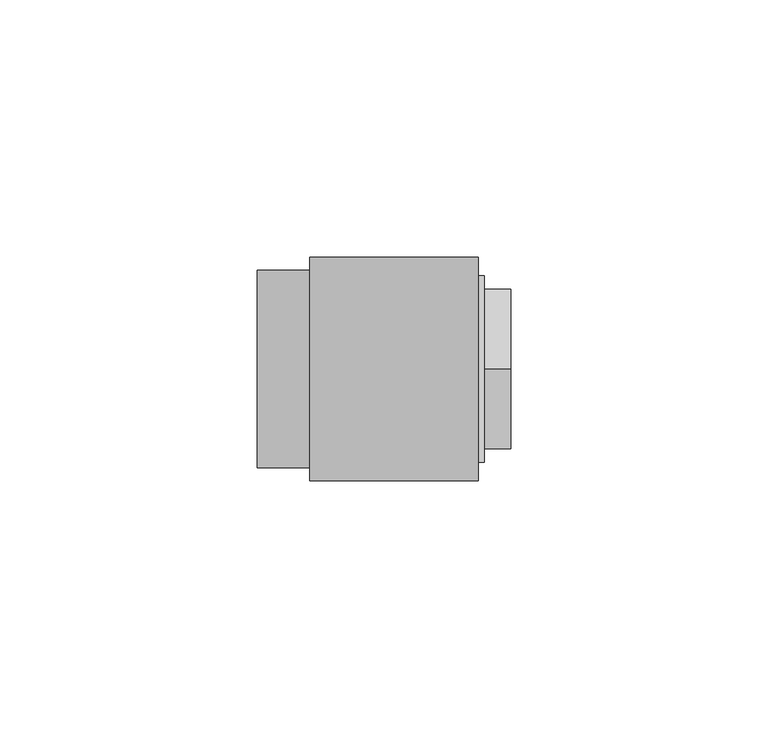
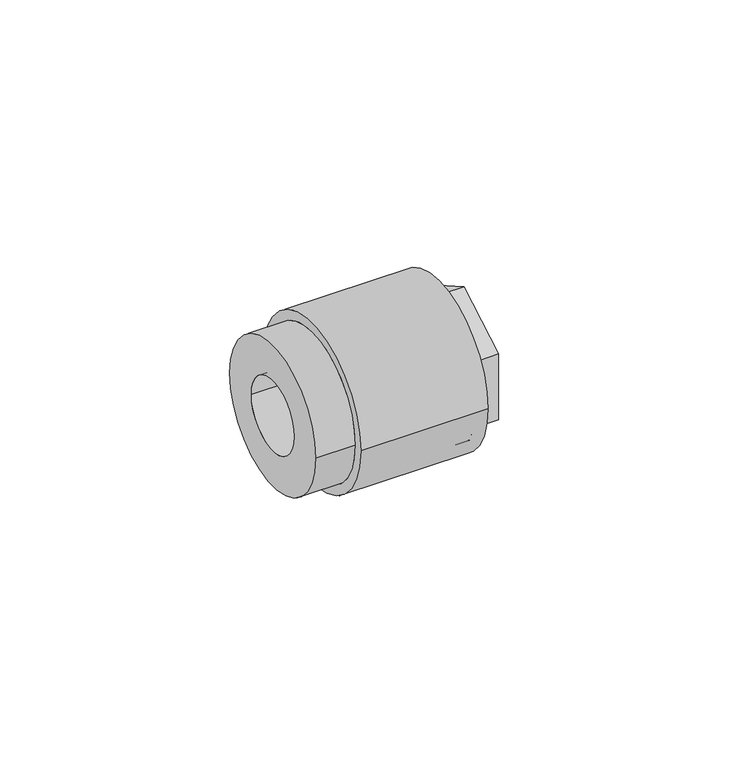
"""IFC4 building model written with IfcOpenShell, lengths in millimetres: pipe fitting geometry, Aquatherm - Fusion Outlet Transition Female : POTABLE BRASS - HEX."""

from ifc_helpers import new_model, si_unit, frame, origin, place, context, project, spatial, polyline, circle_curve, source, transform, mapped, element, save
from ifc_brep_helpers import plane_surface, cylinder_surface, revolved_surface, advanced_brep


def pipe_fitting_dfd0164b(model_context):
    return source(origin(), model_context, "Body", "AdvancedBrep", [
        advanced_brep(
        [(25.62225, 12.7, 0.0), (25.62225, -12.7, 0.0), (36.5363125, -12.7, 0.0), (36.5363125, 12.7, 0.0), (25.62225, 13.49375, 0.0), (25.62225, -13.49375, 0.0), (22.44725, 13.49375, 0.0), (22.44725, -13.49375, 0.0), (22.44725, 9.525, 0.0), (22.44725, -9.525, 0.0), (19.27225, 9.525, 0.0), (19.27225, -9.525, 0.0), (19.27225, 19.177, 0.0), (19.27225, -19.177, 0.0), (32.766, 19.177, 0.0), (32.766, -19.177, 0.0), (39.116, 13.49375, 0.0), (39.116, -13.49375, 0.0), (39.116, -15.494, 0.0), (39.116, -15.494, -8.9454651), (39.116, 0.0, -17.8909301), (39.116, 15.494, -8.9454651), (39.116, 15.494, 0.0), (39.116, 15.494, 8.9454651), (39.116, 0.0, 17.8909301), (39.116, -15.494, 8.9454651), (32.766, 18.161, 0.0), (32.766, -18.161, 0.0), (33.956625, 18.161, 0.0), (33.956625, -18.161, 0.0), (33.956625, 0.0, -17.8909301), (33.956625, -15.494, -8.9454651), (33.956625, -15.494, 8.9454651), (33.956625, 0.0, 17.8909301), (33.956625, 15.494, 8.9454651), (33.956625, 15.494, -8.9454651)],
        [
            (0, 1, circle_curve(frame((25.62225, 0.0, 0.0), z_axis=(-1.0, 0.0, 0.0), x_axis=(0.0, -1.0, 0.0)), 12.7)),
            (1, 2),
            (2, 3, circle_curve(frame((36.5363125, 0.0, 0.0), z_axis=(1.0, 0.0, 0.0), x_axis=(0.0, -1.0, 0.0)), 12.7)),
            (3, 0),
            (1, 0, circle_curve(frame((25.62225, 0.0, 0.0), z_axis=(-1.0, 0.0, 0.0), x_axis=(0.0, -1.0, 0.0)), 12.7)),
            (3, 2, circle_curve(frame((36.5363125, 0.0, 0.0), z_axis=(1.0, 0.0, 0.0), x_axis=(0.0, -1.0, 0.0)), 12.7)),
            (0, 4),
            (4, 5, circle_curve(frame((25.62225, 0.0, 0.0), z_axis=(-1.0, 0.0, 0.0), x_axis=(0.0, -1.0, 0.0)), 13.49375)),
            (5, 1),
            (5, 4, circle_curve(frame((25.62225, 0.0, 0.0), z_axis=(-1.0, 0.0, 0.0), x_axis=(0.0, -1.0, 0.0)), 13.49375)),
            (4, 6),
            (6, 7, circle_curve(frame((22.44725, 0.0, 0.0), z_axis=(-1.0, 0.0, 0.0), x_axis=(0.0, -1.0, 0.0)), 13.49375)),
            (7, 5),
            (7, 6, circle_curve(frame((22.44725, 0.0, 0.0), z_axis=(-1.0, 0.0, 0.0), x_axis=(0.0, -1.0, 0.0)), 13.49375)),
            (6, 8),
            (8, 9, circle_curve(frame((22.44725, 0.0, 0.0), z_axis=(-1.0, 0.0, 0.0), x_axis=(0.0, -1.0, 0.0)), 9.525)),
            (9, 7),
            (9, 8, circle_curve(frame((22.44725, 0.0, 0.0), z_axis=(-1.0, 0.0, 0.0), x_axis=(0.0, -1.0, 0.0)), 9.525)),
            (8, 10),
            (10, 11, circle_curve(frame((19.27225, 0.0, 0.0), z_axis=(-1.0, 0.0, 0.0), x_axis=(0.0, -1.0, 0.0)), 9.525)),
            (11, 9),
            (11, 10, circle_curve(frame((19.27225, 0.0, 0.0), z_axis=(-1.0, 0.0, 0.0), x_axis=(0.0, -1.0, 0.0)), 9.525)),
            (10, 12),
            (12, 13, circle_curve(frame((19.27225, 0.0, 0.0), z_axis=(-1.0, 0.0, 0.0), x_axis=(0.0, -1.0, 0.0)), 19.177)),
            (13, 11),
            (13, 12, circle_curve(frame((19.27225, 0.0, 0.0), z_axis=(-1.0, 0.0, 0.0), x_axis=(0.0, -1.0, 0.0)), 19.177)),
            (12, 14),
            (14, 15, circle_curve(frame((32.766, 0.0, 0.0), z_axis=(-1.0, 0.0, 0.0), x_axis=(0.0, -1.0, 0.0)), 19.177)),
            (15, 13),
            (15, 14, circle_curve(frame((32.766, 0.0, 0.0), z_axis=(-1.0, 0.0, 0.0), x_axis=(0.0, -1.0, 0.0)), 19.177)),
            (16, 17, circle_curve(frame((39.116, 0.0, 0.0), z_axis=(-1.0, 0.0, 0.0), x_axis=(0.0, -1.0, 0.0)), 13.49375)),
            (17, 18),
            (18, 19),
            (19, 20),
            (20, 21),
            (21, 22),
            (22, 16),
            (17, 16, circle_curve(frame((39.116, 0.0, 0.0), z_axis=(-1.0, 0.0, 0.0), x_axis=(0.0, -1.0, 0.0)), 13.49375)),
            (22, 23),
            (23, 24),
            (24, 25),
            (25, 18),
            (2, 17),
            (16, 3),
            (14, 26),
            (26, 27, circle_curve(frame((32.766, 0.0, 0.0), z_axis=(-1.0, 0.0, 0.0), x_axis=(0.0, -1.0, 0.0)), 18.161)),
            (27, 15),
            (27, 26, circle_curve(frame((32.766, 0.0, 0.0), z_axis=(-1.0, 0.0, 0.0), x_axis=(0.0, -1.0, 0.0)), 18.161)),
            (26, 28),
            (28, 29, circle_curve(frame((33.956625, 0.0, 0.0), z_axis=(-1.0, 0.0, 0.0), x_axis=(0.0, -1.0, 0.0)), 18.161)),
            (29, 27),
            (29, 28, circle_curve(frame((33.956625, 0.0, 0.0), z_axis=(-1.0, 0.0, 0.0), x_axis=(0.0, -1.0, 0.0)), 18.161)),
            (30, 31),
            (31, 32),
            (32, 33),
            (33, 34),
            (34, 35),
            (35, 30),
            (35, 21),
            (20, 30),
            (34, 23),
            (33, 24),
            (32, 25),
            (31, 19),
        ],
        [
            revolved_surface(polyline([(36.5363125, -12.7, 0.0), (25.62225, -12.7, 0.0)]), (40.9492251, 0.0, 0.0), (1.0, 0.0, 0.0)),
            plane_surface(frame((25.62225, 0.0, 0.0), z_axis=(-1.0, 0.0, 0.0), x_axis=(0.0, -1.0, 0.0))),
            revolved_surface(polyline([(25.62225, -13.49375, 0.0), (22.44725, -13.49375, 0.0)]), (40.9492251, 0.0, 0.0), (1.0, 0.0, 0.0)),
            plane_surface(frame((22.44725, 0.0, 0.0), z_axis=(1.0, 0.0, 0.0), x_axis=(0.0, -1.0, 0.0))),
            revolved_surface(polyline([(22.44725, -9.525, 0.0), (19.27225, -9.525, 0.0)]), (40.9492251, 0.0, 0.0), (1.0, 0.0, 0.0)),
            plane_surface(frame((19.27225, 0.0, 0.0), z_axis=(-1.0, 0.0, 0.0), x_axis=(0.0, -1.0, 0.0))),
            cylinder_surface(frame((40.9492251, 0.0, 0.0), z_axis=(1.0, 0.0, 0.0), x_axis=(0.0, -1.0, 0.0)), 19.177),
            plane_surface(frame((39.116, 0.0, 0.0), z_axis=(1.0, 0.0, 0.0), x_axis=(0.0, -1.0, 0.0))),
            revolved_surface(polyline([(39.116, -13.49375, 0.0), (36.5363125, -12.7, 0.0)]), (40.9492251, 0.0, 0.0), (1.0, 0.0, 0.0)),
            plane_surface(frame((32.766, 0.0, 0.0), z_axis=(1.0, 0.0, 0.0), x_axis=(0.0, -1.0, 0.0))),
            cylinder_surface(frame((40.9492251, 0.0, 0.0), z_axis=(1.0, 0.0, 0.0), x_axis=(0.0, -1.0, 0.0)), 18.161),
            plane_surface(frame((33.956625, 15.494, -8.9454651), z_axis=(1.0000000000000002, 0.0, 0.0), x_axis=(0.0, 0.8660254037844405, 0.49999999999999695))),
            plane_surface(frame((33.956625, 0.0, -17.8909301), z_axis=(0.0, 0.49999999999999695, -0.8660254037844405), x_axis=(1.0, 0.0, 0.0))),
            plane_surface(frame((33.956625, 15.494, -8.9454651), z_axis=(0.0, 1.0, 0.0), x_axis=(1.0, 0.0, 0.0))),
            plane_surface(frame((33.956625, 15.494, 8.9454651), z_axis=(0.0, 0.5000000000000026, 0.8660254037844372), x_axis=(1.0, 0.0, 0.0))),
            plane_surface(frame((33.956625, 0.0, 17.8909301), z_axis=(0.0, -0.499999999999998, 0.8660254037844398), x_axis=(1.0, 0.0, 0.0))),
            plane_surface(frame((33.956625, -15.494, 8.9454651), z_axis=(0.0, -1.0, 0.0), x_axis=(1.0, 0.0, 0.0))),
            plane_surface(frame((33.956625, -15.494, -8.9454651), z_axis=(0.0, -0.5000000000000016, -0.8660254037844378), x_axis=(1.0, 0.0, 0.0))),
        ],
        [
            (0, [[1, 2, 3, 4]]),
            (0, [[-2, 5, -4, 6]]),
            (1, [[-1, 7, 8, 9]]),
            (1, [[-5, -9, 10, -7]]),
            (2, [[-8, 11, 12, 13]]),
            (2, [[-10, -13, 14, -11]]),
            (3, [[-12, 15, 16, 17]]),
            (3, [[-14, -17, 18, -15]]),
            (4, [[-16, 19, 20, 21]]),
            (4, [[-18, -21, 22, -19]]),
            (5, [[-20, 23, 24, 25]]),
            (5, [[-22, -25, 26, -23]]),
            (6, [[-24, 27, 28, 29]]),
            (6, [[-26, -29, 30, -27]]),
            (7, [[31, 32, 33, 34, 35, 36, 37]]),
            (7, [[38, -37, 39, 40, 41, 42, -32]]),
            (8, [[-3, 43, -31, 44]]),
            (8, [[-6, -44, -38, -43]]),
            (9, [[-28, 45, 46, 47]]),
            (9, [[-30, -47, 48, -45]]),
            (10, [[-46, 49, 50, 51]]),
            (10, [[-48, -51, 52, -49]]),
            (11, [[-50, -52], [53, 54, 55, 56, 57, 58]]),
            (12, [[-58, 59, -35, 60]]),
            (13, [[-57, 61, -39, -36, -59]]),
            (14, [[-56, 62, -40, -61]]),
            (15, [[-55, 63, -41, -62]]),
            (16, [[-54, 64, -33, -42, -63]]),
            (17, [[-53, -60, -34, -64]]),
        ],
    ),
        advanced_brep(
        [(-10.16, 19.177, 0.0), (-10.16, -19.177, 0.0), (-10.16, 9.525, 0.0), (-10.16, -9.525, 0.0), (19.27225, 19.177, 0.0), (19.27225, -19.177, 0.0), (19.27225, 9.525, 0.0), (19.27225, -9.525, 0.0), (0.0, 19.177, 0.0), (0.0, -19.177, 0.0), (32.766, 21.717, 0.0), (32.766, -21.717, 0.0), (32.766, 19.177, 0.0), (32.766, -19.177, 0.0), (0.0, 21.717, 0.0), (0.0, -21.717, 0.0)],
        [
            (0, 1, circle_curve(frame((-10.16, 0.0, 0.0), z_axis=(-1.0, 0.0, 0.0), x_axis=(0.0, -1.0, 0.0)), 19.177)),
            (1, 0, circle_curve(frame((-10.16, 0.0, 0.0), z_axis=(-1.0, 0.0, 0.0), x_axis=(0.0, -1.0, 0.0)), 19.177)),
            (2, 3, circle_curve(frame((-10.16, 0.0, 0.0), z_axis=(1.0, 0.0, 0.0), x_axis=(0.0, -1.0, 0.0)), 9.525)),
            (3, 2, circle_curve(frame((-10.16, 0.0, 0.0), z_axis=(1.0, 0.0, 0.0), x_axis=(0.0, -1.0, 0.0)), 9.525)),
            (4, 5, circle_curve(frame((19.27225, 0.0, 0.0), z_axis=(1.0, 0.0, 0.0), x_axis=(0.0, -1.0, 0.0)), 19.177)),
            (5, 4, circle_curve(frame((19.27225, 0.0, 0.0), z_axis=(1.0, 0.0, 0.0), x_axis=(0.0, -1.0, 0.0)), 19.177)),
            (6, 7, circle_curve(frame((19.27225, 0.0, 0.0), z_axis=(-1.0, 0.0, 0.0), x_axis=(0.0, -1.0, 0.0)), 9.525)),
            (7, 6, circle_curve(frame((19.27225, 0.0, 0.0), z_axis=(-1.0, 0.0, 0.0), x_axis=(0.0, -1.0, 0.0)), 9.525)),
            (2, 6),
            (7, 3),
            (0, 8),
            (8, 9, circle_curve(frame((0.0, 0.0, 0.0), z_axis=(-1.0, 0.0, 0.0), x_axis=(0.0, -1.0, 0.0)), 19.177)),
            (9, 1),
            (9, 8, circle_curve(frame((0.0, 0.0, 0.0), z_axis=(-1.0, 0.0, 0.0), x_axis=(0.0, -1.0, 0.0)), 19.177)),
            (10, 11, circle_curve(frame((32.766, 0.0, 0.0), z_axis=(1.0, 0.0, 0.0), x_axis=(0.0, -1.0, 0.0)), 21.717)),
            (11, 10, circle_curve(frame((32.766, 0.0, 0.0), z_axis=(1.0, 0.0, 0.0), x_axis=(0.0, -1.0, 0.0)), 21.717)),
            (12, 13, circle_curve(frame((32.766, 0.0, 0.0), z_axis=(-1.0, 0.0, 0.0), x_axis=(0.0, -1.0, 0.0)), 19.177)),
            (13, 12, circle_curve(frame((32.766, 0.0, 0.0), z_axis=(-1.0, 0.0, 0.0), x_axis=(0.0, -1.0, 0.0)), 19.177)),
            (14, 15, circle_curve(frame((0.0, 0.0, 0.0), z_axis=(-1.0, 0.0, 0.0), x_axis=(0.0, -1.0, 0.0)), 21.717)),
            (15, 14, circle_curve(frame((0.0, 0.0, 0.0), z_axis=(-1.0, 0.0, 0.0), x_axis=(0.0, -1.0, 0.0)), 21.717)),
            (13, 5),
            (4, 12),
            (11, 15),
            (14, 10),
        ],
        [
            plane_surface(frame((-10.16, -9.525, 0.0), z_axis=(-1.0, 0.0, 0.0), x_axis=(0.0, 0.0, -1.0))),
            plane_surface(frame((19.27225, -9.525, 0.0), z_axis=(1.0, 0.0, 0.0), x_axis=(0.0, 0.0, 1.0))),
            revolved_surface(polyline([(19.27225, -9.525, 0.0), (-10.16, -9.525, 0.0)]), (19.27225, 0.0, 0.0), (1.0, 0.0, 0.0)),
            cylinder_surface(frame((0.0, 0.0, 0.0), z_axis=(-1.0, 0.0, 0.0), x_axis=(0.0, -1.0, 0.0)), 19.177),
            plane_surface(frame((32.766, -19.177, 0.0), z_axis=(1.0, 0.0, 0.0), x_axis=(0.0, 0.0, 1.0))),
            plane_surface(frame((0.0, -19.177, 0.0), z_axis=(-1.0, 0.0, 0.0), x_axis=(0.0, 0.0, -1.0))),
            revolved_surface(polyline([(32.766, -19.177, 0.0), (19.27225, -19.177, 0.0)]), (32.766, 0.0, 0.0), (1.0, 0.0, 0.0)),
            cylinder_surface(frame((0.0, 0.0, 0.0), z_axis=(-1.0, 0.0, 0.0), x_axis=(0.0, -1.0, 0.0)), 21.717),
        ],
        [
            (0, [[1, 2], [3, 4]]),
            (1, [[5, 6], [7, 8]]),
            (2, [[-3, 9, -8, 10]]),
            (2, [[-4, -10, -7, -9]]),
            (3, [[-1, 11, 12, 13]]),
            (3, [[-2, -13, 14, -11]]),
            (4, [[15, 16], [17, 18]]),
            (5, [[19, 20], [-12, -14]]),
            (6, [[-18, 21, -5, 22]]),
            (6, [[-17, -22, -6, -21]]),
            (7, [[-16, 23, -19, 24]]),
            (7, [[-15, -24, -20, -23]]),
        ],
    ),
    ])


if __name__ == "__main__":
    model = new_model("IFC4")
    model_context = context("Model", 3, world=origin())
    ifc_project = project(units=[si_unit("LENGTHUNIT", "METRE", prefix="MILLI")], contexts=[model_context])
    site = spatial("IfcSite", under=ifc_project)
    building = spatial("IfcBuilding", under=site)
    placement = place(None, origin())
    pipe_fitting_shape = pipe_fitting_dfd0164b(model_context)
    element("IfcPipeFitting", 1, ObjectType="Aquatherm - Fusion Outlet Transition Female : POTABLE BRASS - HEX", at=placement, inside=building, context=model_context, shape_type="MappedRepresentation", body=[
        mapped(pipe_fitting_shape, transform((0.0, 0.0, 0.0), x_axis=(1.0, 0.0, 0.0), y_axis=(0.0, 1.0, 0.0), z_axis=(0.0, 0.0, 1.0))),
    ])
    save(model, "model.ifc")
